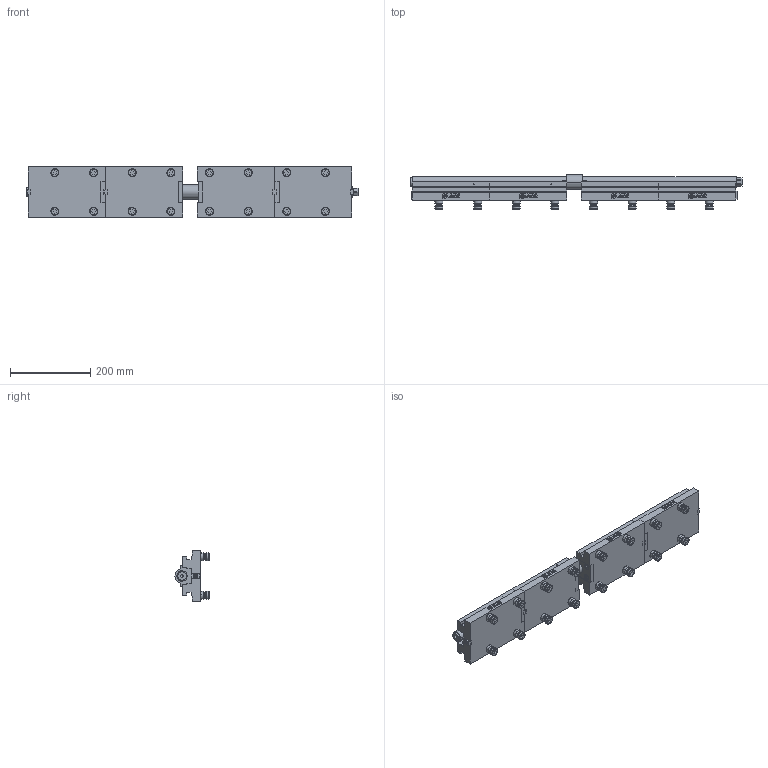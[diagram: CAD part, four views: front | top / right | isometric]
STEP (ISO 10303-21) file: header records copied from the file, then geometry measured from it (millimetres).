
FILE_DESCRIPTION (( 'STEP AP214' ), '1' );
FILE_NAME ('81800.STEP', '2020-10-28T07:13:51', ( '' ), ( '' ), 'SwSTEP 2.0', 'SolidWorks 2019', '' );
FILE_SCHEMA (( 'AUTOMOTIVE_DESIGN' ));
Length unit declared in the file: millimetre
Products named in the file (1): 81800
Bounding box: 825 x 84.5 x 125 mm (x, y, z)
Volume: 3445680.6 mm3; surface area: 507483.2 mm2
Topology: 43 solids, 43 shells, 2081 faces, 5125 edges, 3268 vertices
Faces by surface type: plane 1274, cylinder 295, cone 200, bspline 160, torus 144, sphere 8
Entity records: 85468 total; most frequent: CARTESIAN_POINT 13307, ORIENTED_EDGE 10162, DIRECTION 9695, EDGE_CURVE 5081, VECTOR 3679, LINE 3679, VERTEX_POINT 3268, AXIS2_PLACEMENT_3D 3008
